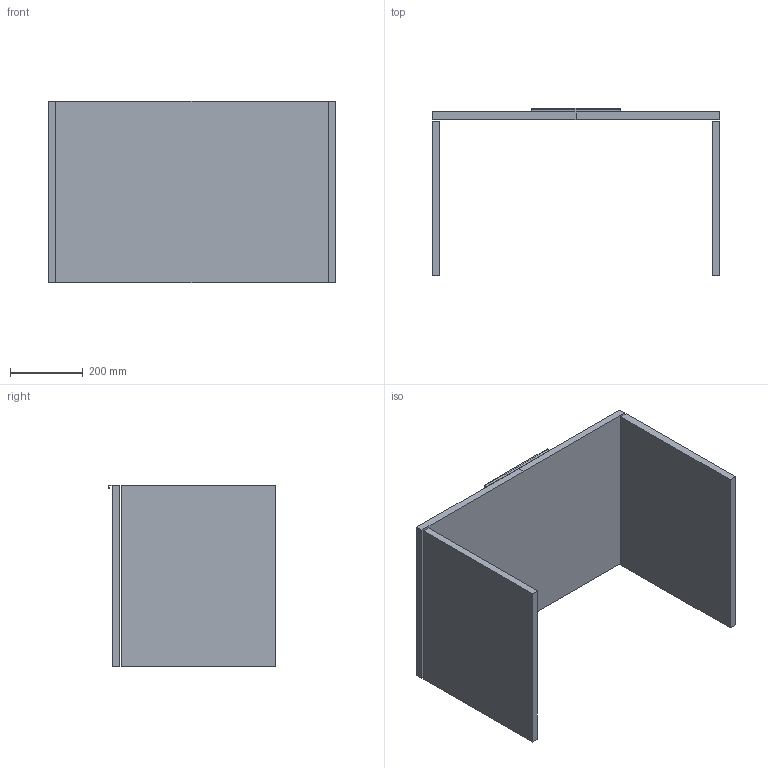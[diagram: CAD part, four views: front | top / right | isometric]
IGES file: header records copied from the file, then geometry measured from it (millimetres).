
Start section: START RECORD GO HERE.
Global section: file name: 7242.igs; native system: DASSAULT SYSTEMES CATIA V5 R19 - www.3ds.com; preprocessor: CATIA Version 5 Release 19 SP 5 ; author: gioge; organization: LAPTOP-G94B6G74; date: 20201002.171848; units: millimetre
Bounding box: 790 x 460 x 500 mm (x, y, z)
Surface area: 1775472 mm2 (no closed solid volume)
Topology: 0 solids, 0 shells, 28 faces, 120 edges, 120 vertices
Faces by surface type: plane 28
